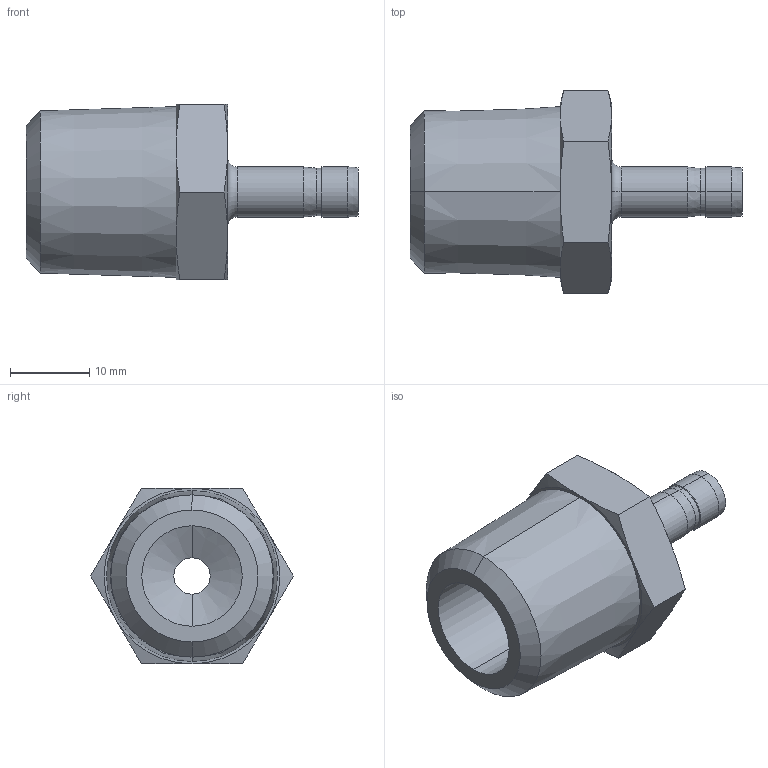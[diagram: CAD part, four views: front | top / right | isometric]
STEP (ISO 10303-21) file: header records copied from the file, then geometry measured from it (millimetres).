
FILE_DESCRIPTION (( 'STEP AP203' ), '1' );
FILE_NAME ('DHA04-08 SS.STEP', '2009-09-08T06:14:40', ( ' ' ), ( '' ), 'SwSTEP 2.0', 'SolidWorks 2008', '' );
FILE_SCHEMA (( 'CONFIG_CONTROL_DESIGN' ));
Length unit declared in the file: millimetre
Products named in the file (1): DHA04-08 SS
Bounding box: 42 x 25.67 x 22.23 mm (x, y, z)
Volume: 6790.7 mm3; surface area: 3864.6 mm2
Topology: 1 solids, 1 shells, 46 faces, 96 edges, 54 vertices
Faces by surface type: cone 24, cylinder 10, plane 10, torus 2
Entity records: 1357 total; most frequent: CARTESIAN_POINT 317, DIRECTION 210, ORIENTED_EDGE 192, EDGE_CURVE 96, AXIS2_PLACEMENT_3D 91, VERTEX_POINT 54, EDGE_LOOP 50, FACE_OUTER_BOUND 46
